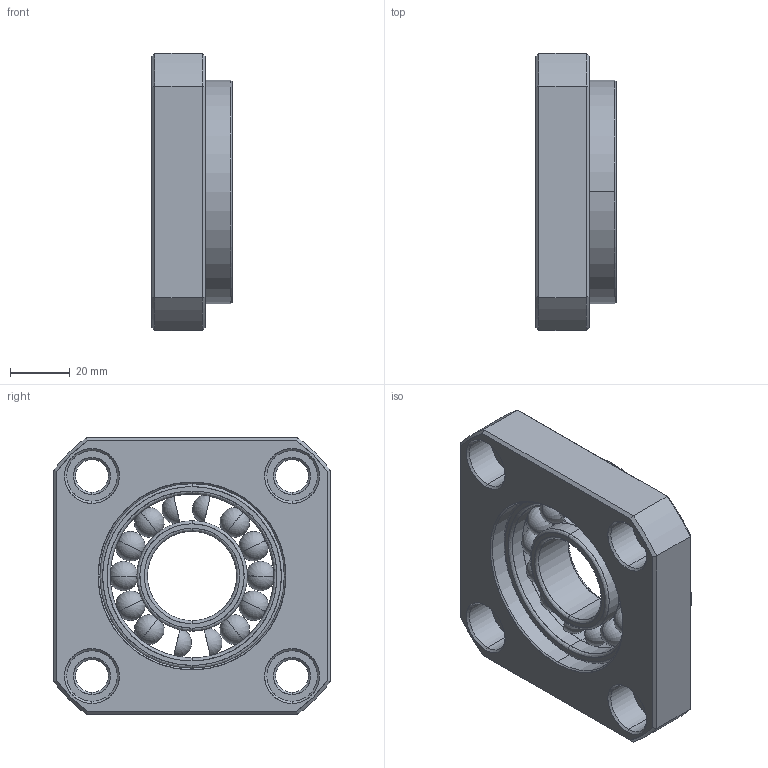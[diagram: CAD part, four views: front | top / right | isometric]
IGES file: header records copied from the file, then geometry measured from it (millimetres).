
Start section: SolidWorks IGES file using analytic representation for surfaces
Bounding box: 27 x 93 x 93 mm (x, y, z)
Surface area: 38697.1 mm2 (no closed solid volume)
Topology: 0 solids, 0 shells, 145 faces, 1840 edges, 1788 vertices
Faces by surface type: revolution 100, bspline 45
